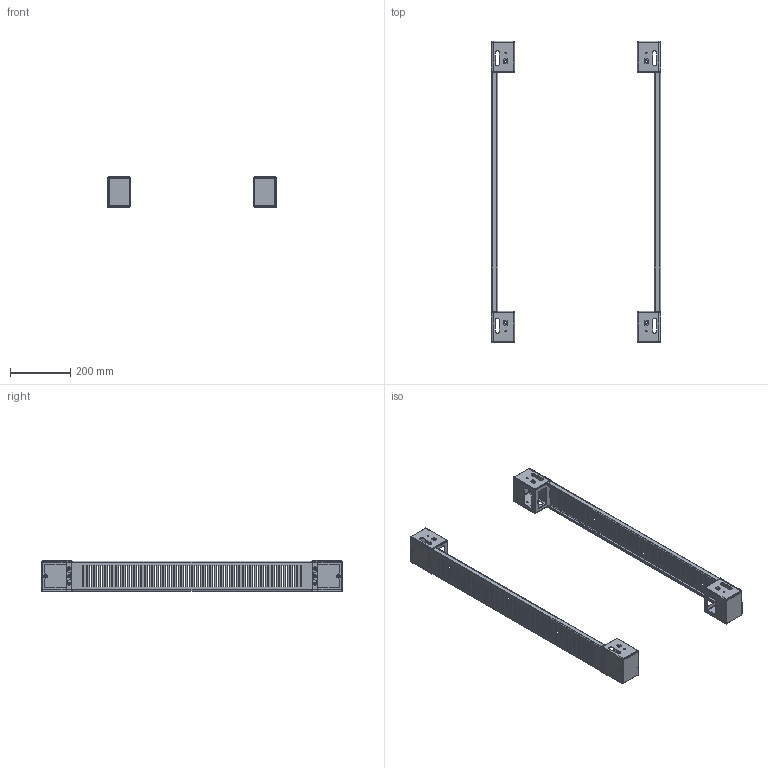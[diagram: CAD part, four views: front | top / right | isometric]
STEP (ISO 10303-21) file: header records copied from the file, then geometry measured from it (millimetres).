
FILE_DESCRIPTION(('STEP AP203'), '1');
FILE_NAME('3990 ÑÁ Ïåðåäíèå è çàäíèå ýëåìåíòû öîêîëÿ', '', ('UNSPECIFIED'), ('UNSPECIFIED'), 'C3D Converter', 'C3D Toolkit', '');
FILE_SCHEMA(('CONFIG_CONTROL_DESIGN'));
Length unit declared in the file: millimetre
Products named in the file (8): 3990.10.100.П СБ; 3102; 3101; 3103; 3105
Assembly tree (26 placements, depth 3):
  3990.10.100.П СБ
    3102  x4
      3101
      (unnamed)
      3103
      (unnamed)
    (unnamed)  x4
    3105  x2
    (unnamed)  x8
Bounding box: 560 x 998 x 100.5 mm (x, y, z)
Volume: 644182.2 mm3; surface area: 812890.6 mm2
Topology: 46 solids, 46 shells, 3000 faces, 8428 edges, 5580 vertices
Faces by surface type: cylinder 1496, plane 1324, cone 100, sphere 64, torus 16
Full cylindrical faces by diameter (mm): 4.134 x16, 5 x24, 5.8 x16, 6.9 x16, 7 x12, 7.2 x16, 8.376 x4, 9.2 x16
Entity records: 20436 total; most frequent: CARTESIAN_POINT 4230, ORIENTED_EDGE 3116, DIRECTION 3107, EDGE_CURVE 1558, LINE 1239, VECTOR 1239, VERTEX_POINT 1027, AXIS2_PLACEMENT_3D 934
